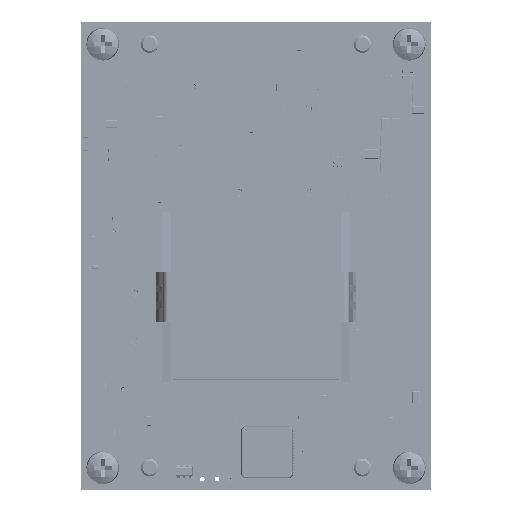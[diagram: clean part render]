
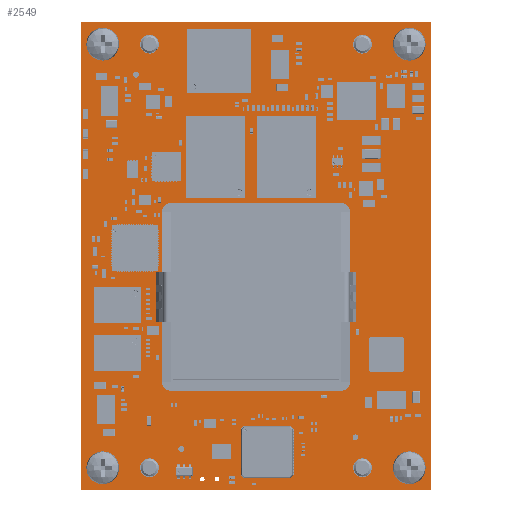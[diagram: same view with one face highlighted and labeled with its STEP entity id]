
A CAD part, top view. The second image highlights one B-rep face of the part: STEP entity #2549.
In plain terms, the highlighted planar face has unit normal (0, 0, 1).
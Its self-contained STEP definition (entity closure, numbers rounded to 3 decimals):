
#2060 = VERTEX_POINT('',#2061);
#2061 = CARTESIAN_POINT('',(0.,0.,1.735));
#2067 = EDGE_CURVE('',#2060,#2068,#2070,.T.);
#2068 = VERTEX_POINT('',#2069);
#2069 = CARTESIAN_POINT('',(60.,0.,1.735));
#2070 = LINE('',#2071,#2072);
#2071 = CARTESIAN_POINT('',(0.,0.,1.735));
#2072 = VECTOR('',#2073,1.);
#2073 = DIRECTION('',(1.,0.,0.));
#2098 = EDGE_CURVE('',#2068,#2099,#2101,.T.);
#2099 = VERTEX_POINT('',#2100);
#2100 = CARTESIAN_POINT('',(60.,80.,1.735));
#2101 = LINE('',#2102,#2103);
#2102 = CARTESIAN_POINT('',(60.,0.,1.735));
#2103 = VECTOR('',#2104,1.);
#2104 = DIRECTION('',(0.,1.,0.));
#2129 = EDGE_CURVE('',#2099,#2130,#2132,.T.);
#2130 = VERTEX_POINT('',#2131);
#2131 = CARTESIAN_POINT('',(0.,80.,1.735));
#2132 = LINE('',#2133,#2134);
#2133 = CARTESIAN_POINT('',(60.,80.,1.735));
#2134 = VECTOR('',#2135,1.);
#2135 = DIRECTION('',(-1.,0.,0.));
#2160 = EDGE_CURVE('',#2130,#2060,#2161,.T.);
#2161 = LINE('',#2162,#2163);
#2162 = CARTESIAN_POINT('',(0.,80.,1.735));
#2163 = VECTOR('',#2164,1.);
#2164 = DIRECTION('',(0.,-1.,0.));
#2184 = VERTEX_POINT('',#2185);
#2185 = CARTESIAN_POINT('',(5.4,3.8,1.735));
#2191 = EDGE_CURVE('',#2184,#2184,#2192,.T.);
#2192 = CIRCLE('',#2193,1.6);
#2193 = AXIS2_PLACEMENT_3D('',#2194,#2195,#2196);
#2194 = CARTESIAN_POINT('',(3.8,3.8,1.735));
#2195 = DIRECTION('',(0.,0.,1.));
#2196 = DIRECTION('',(1.,0.,-0.));
#2217 = VERTEX_POINT('',#2218);
#2218 = CARTESIAN_POINT('',(21.21,1.847,1.735));
#2224 = EDGE_CURVE('',#2217,#2217,#2225,.T.);
#2225 = CIRCLE('',#2226,0.4);
#2226 = AXIS2_PLACEMENT_3D('',#2227,#2228,#2229);
#2227 = CARTESIAN_POINT('',(20.81,1.847,1.735));
#2228 = DIRECTION('',(0.,0.,1.));
#2229 = DIRECTION('',(1.,0.,-0.));
#2250 = VERTEX_POINT('',#2251);
#2251 = CARTESIAN_POINT('',(5.4,76.2,1.735));
#2257 = EDGE_CURVE('',#2250,#2250,#2258,.T.);
#2258 = CIRCLE('',#2259,1.6);
#2259 = AXIS2_PLACEMENT_3D('',#2260,#2261,#2262);
#2260 = CARTESIAN_POINT('',(3.8,76.2,1.735));
#2261 = DIRECTION('',(0.,0.,1.));
#2262 = DIRECTION('',(1.,0.,-0.));
#2283 = VERTEX_POINT('',#2284);
#2284 = CARTESIAN_POINT('',(13.4,3.8,1.735));
#2290 = EDGE_CURVE('',#2283,#2283,#2291,.T.);
#2291 = CIRCLE('',#2292,1.6);
#2292 = AXIS2_PLACEMENT_3D('',#2293,#2294,#2295);
#2293 = CARTESIAN_POINT('',(11.8,3.8,1.735));
#2294 = DIRECTION('',(0.,0.,1.));
#2295 = DIRECTION('',(1.,0.,-0.));
#2316 = VERTEX_POINT('',#2317);
#2317 = CARTESIAN_POINT('',(13.4,76.2,1.735));
#2323 = EDGE_CURVE('',#2316,#2316,#2324,.T.);
#2324 = CIRCLE('',#2325,1.6);
#2325 = AXIS2_PLACEMENT_3D('',#2326,#2327,#2328);
#2326 = CARTESIAN_POINT('',(11.8,76.2,1.735));
#2327 = DIRECTION('',(0.,0.,1.));
#2328 = DIRECTION('',(1.,0.,-0.));
#2349 = VERTEX_POINT('',#2350);
#2350 = CARTESIAN_POINT('',(23.75,1.847,1.735));
#2356 = EDGE_CURVE('',#2349,#2349,#2357,.T.);
#2357 = CIRCLE('',#2358,0.4);
#2358 = AXIS2_PLACEMENT_3D('',#2359,#2360,#2361);
#2359 = CARTESIAN_POINT('',(23.35,1.847,1.735));
#2360 = DIRECTION('',(0.,0.,1.));
#2361 = DIRECTION('',(1.,0.,-0.));
#2382 = VERTEX_POINT('',#2383);
#2383 = CARTESIAN_POINT('',(49.8,3.8,1.735));
#2389 = EDGE_CURVE('',#2382,#2382,#2390,.T.);
#2390 = CIRCLE('',#2391,1.6);
#2391 = AXIS2_PLACEMENT_3D('',#2392,#2393,#2394);
#2392 = CARTESIAN_POINT('',(48.2,3.8,1.735));
#2393 = DIRECTION('',(0.,0.,1.));
#2394 = DIRECTION('',(1.,0.,-0.));
#2415 = VERTEX_POINT('',#2416);
#2416 = CARTESIAN_POINT('',(49.8,76.2,1.735));
#2422 = EDGE_CURVE('',#2415,#2415,#2423,.T.);
#2423 = CIRCLE('',#2424,1.6);
#2424 = AXIS2_PLACEMENT_3D('',#2425,#2426,#2427);
#2425 = CARTESIAN_POINT('',(48.2,76.2,1.735));
#2426 = DIRECTION('',(0.,0.,1.));
#2427 = DIRECTION('',(1.,0.,-0.));
#2448 = VERTEX_POINT('',#2449);
#2449 = CARTESIAN_POINT('',(57.8,3.8,1.735));
#2455 = EDGE_CURVE('',#2448,#2448,#2456,.T.);
#2456 = CIRCLE('',#2457,1.6);
#2457 = AXIS2_PLACEMENT_3D('',#2458,#2459,#2460);
#2458 = CARTESIAN_POINT('',(56.2,3.8,1.735));
#2459 = DIRECTION('',(0.,0.,1.));
#2460 = DIRECTION('',(1.,0.,-0.));
#2481 = VERTEX_POINT('',#2482);
#2482 = CARTESIAN_POINT('',(57.8,76.2,1.735));
#2488 = EDGE_CURVE('',#2481,#2481,#2489,.T.);
#2489 = CIRCLE('',#2490,1.6);
#2490 = AXIS2_PLACEMENT_3D('',#2491,#2492,#2493);
#2491 = CARTESIAN_POINT('',(56.2,76.2,1.735));
#2492 = DIRECTION('',(0.,0.,1.));
#2493 = DIRECTION('',(1.,0.,-0.));
#2549 = ADVANCED_FACE('',(#2550,#2556,#2559,#2562,#2565,#2568,#2571,
    #2574,#2577,#2580,#2583),#2586,.T.);
#2550 = FACE_BOUND('',#2551,.T.);
#2551 = EDGE_LOOP('',(#2552,#2553,#2554,#2555));
#2552 = ORIENTED_EDGE('',*,*,#2067,.T.);
#2553 = ORIENTED_EDGE('',*,*,#2098,.T.);
#2554 = ORIENTED_EDGE('',*,*,#2129,.T.);
#2555 = ORIENTED_EDGE('',*,*,#2160,.T.);
#2556 = FACE_BOUND('',#2557,.T.);
#2557 = EDGE_LOOP('',(#2558));
#2558 = ORIENTED_EDGE('',*,*,#2191,.F.);
#2559 = FACE_BOUND('',#2560,.T.);
#2560 = EDGE_LOOP('',(#2561));
#2561 = ORIENTED_EDGE('',*,*,#2224,.F.);
#2562 = FACE_BOUND('',#2563,.T.);
#2563 = EDGE_LOOP('',(#2564));
#2564 = ORIENTED_EDGE('',*,*,#2257,.F.);
#2565 = FACE_BOUND('',#2566,.T.);
#2566 = EDGE_LOOP('',(#2567));
#2567 = ORIENTED_EDGE('',*,*,#2290,.F.);
#2568 = FACE_BOUND('',#2569,.T.);
#2569 = EDGE_LOOP('',(#2570));
#2570 = ORIENTED_EDGE('',*,*,#2323,.F.);
#2571 = FACE_BOUND('',#2572,.T.);
#2572 = EDGE_LOOP('',(#2573));
#2573 = ORIENTED_EDGE('',*,*,#2356,.F.);
#2574 = FACE_BOUND('',#2575,.T.);
#2575 = EDGE_LOOP('',(#2576));
#2576 = ORIENTED_EDGE('',*,*,#2389,.F.);
#2577 = FACE_BOUND('',#2578,.T.);
#2578 = EDGE_LOOP('',(#2579));
#2579 = ORIENTED_EDGE('',*,*,#2422,.F.);
#2580 = FACE_BOUND('',#2581,.T.);
#2581 = EDGE_LOOP('',(#2582));
#2582 = ORIENTED_EDGE('',*,*,#2455,.F.);
#2583 = FACE_BOUND('',#2584,.T.);
#2584 = EDGE_LOOP('',(#2585));
#2585 = ORIENTED_EDGE('',*,*,#2488,.F.);
#2586 = PLANE('',#2587);
#2587 = AXIS2_PLACEMENT_3D('',#2588,#2589,#2590);
#2588 = CARTESIAN_POINT('',(30.,40.,1.735));
#2589 = DIRECTION('',(0.,0.,1.));
#2590 = DIRECTION('',(1.,0.,-0.));
